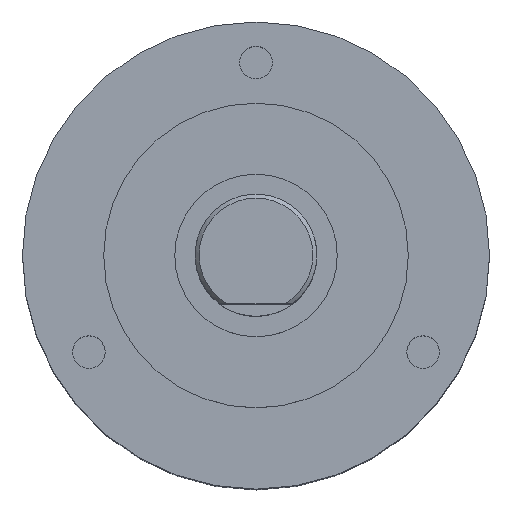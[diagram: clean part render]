
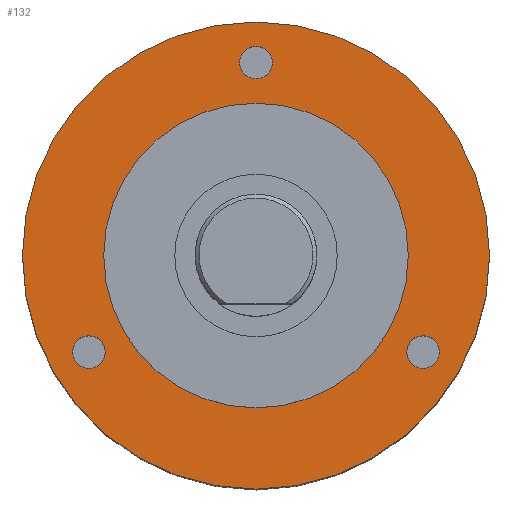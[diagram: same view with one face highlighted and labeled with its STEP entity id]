
A CAD part, top view. The second image highlights one B-rep face of the part: STEP entity #132.
In plain terms, the highlighted planar face has unit normal (0, 0, 1).
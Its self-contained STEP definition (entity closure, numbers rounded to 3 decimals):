
#69=FACE_BOUND('',#202,.T.);
#70=FACE_BOUND('',#203,.T.);
#71=FACE_BOUND('',#204,.T.);
#72=FACE_BOUND('',#205,.T.);
#73=FACE_BOUND('',#206,.T.);
#132=ADVANCED_FACE('',(#69,#70,#71,#72,#73),#169,.T.);
#169=PLANE('',#496);
#202=EDGE_LOOP('',(#313));
#203=EDGE_LOOP('',(#314));
#204=EDGE_LOOP('',(#315));
#205=EDGE_LOOP('',(#316));
#206=EDGE_LOOP('',(#317));
#269=CIRCLE('',#485,11.5);
#273=CIRCLE('',#491,7.5);
#274=CIRCLE('',#493,0.8);
#275=CIRCLE('',#494,0.8);
#276=CIRCLE('',#495,0.8);
#313=ORIENTED_EDGE('',*,*,#438,.T.);
#314=ORIENTED_EDGE('',*,*,#439,.T.);
#315=ORIENTED_EDGE('',*,*,#440,.T.);
#316=ORIENTED_EDGE('',*,*,#437,.T.);
#317=ORIENTED_EDGE('',*,*,#433,.F.);
#393=VERTEX_POINT('',#724);
#397=VERTEX_POINT('',#734);
#398=VERTEX_POINT('',#737);
#399=VERTEX_POINT('',#739);
#400=VERTEX_POINT('',#741);
#433=EDGE_CURVE('',#393,#393,#269,.T.);
#437=EDGE_CURVE('',#397,#397,#273,.T.);
#438=EDGE_CURVE('',#398,#398,#274,.T.);
#439=EDGE_CURVE('',#399,#399,#275,.T.);
#440=EDGE_CURVE('',#400,#400,#276,.T.);
#485=AXIS2_PLACEMENT_3D('',#723,#566,#567);
#491=AXIS2_PLACEMENT_3D('',#733,#578,#579);
#493=AXIS2_PLACEMENT_3D('',#736,#582,#583);
#494=AXIS2_PLACEMENT_3D('',#738,#584,#585);
#495=AXIS2_PLACEMENT_3D('',#740,#586,#587);
#496=AXIS2_PLACEMENT_3D('',#742,#588,#589);
#566=DIRECTION('',(0.,0.,-1.));
#567=DIRECTION('',(-1.,0.,0.));
#578=DIRECTION('',(0.,0.,-1.));
#579=DIRECTION('',(1.,0.,0.));
#582=DIRECTION('',(0.,0.,-1.));
#583=DIRECTION('',(0.5,0.866,0.));
#584=DIRECTION('',(0.,0.,-1.));
#585=DIRECTION('',(0.5,-0.866,0.));
#586=DIRECTION('',(0.,0.,-1.));
#587=DIRECTION('',(-1.,0.,0.));
#588=DIRECTION('',(0.,0.,1.));
#589=DIRECTION('',(1.,0.,0.));
#723=CARTESIAN_POINT('',(0.,0.,0.));
#724=CARTESIAN_POINT('',(-11.5,0.,0.));
#733=CARTESIAN_POINT('',(0.,0.,0.));
#734=CARTESIAN_POINT('',(7.5,0.,0.));
#736=CARTESIAN_POINT('',(8.227,-4.75,0.));
#737=CARTESIAN_POINT('',(8.627,-4.057,0.));
#738=CARTESIAN_POINT('',(-8.227,-4.75,0.));
#739=CARTESIAN_POINT('',(-7.827,-5.443,0.));
#740=CARTESIAN_POINT('',(0.,9.5,0.));
#741=CARTESIAN_POINT('',(-0.8,9.5,0.));
#742=CARTESIAN_POINT('',(0.,0.,0.));
